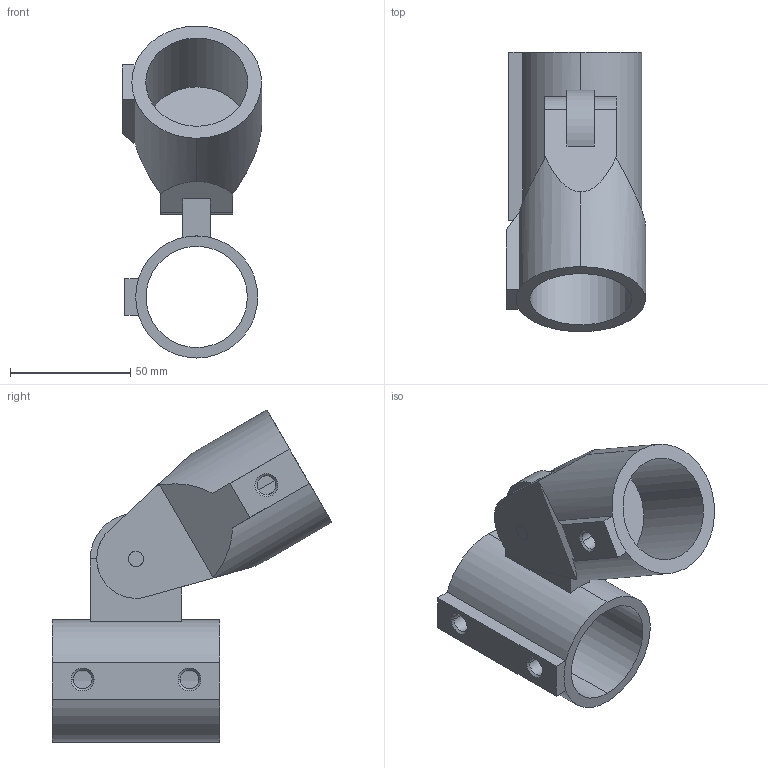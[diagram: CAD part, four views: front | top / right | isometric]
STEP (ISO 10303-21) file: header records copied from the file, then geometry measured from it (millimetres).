
FILE_DESCRIPTION(/* description */ ('VariCAD 2010-3.03 AP-214'),/* implementation_level */ '2;1');
FILE_NAME(/* name */ '0353-80-01',/* time_stamp */ '2011-06-29T16:02:22-06:00',/* author */ (''),/* organization */ (''),/* preprocessor_version */ 'ST-DEVELOPER v12',/* originating_system */ 'VariCAD 2010-3.03; kernel version (20100102)',/* authorisation */ '');
FILE_SCHEMA (('AUTOMOTIVE_DESIGN'));
Length unit declared in the file: millimetre
Products named in the file (1): Part
Bounding box: 57.91 x 116.4 x 138.19 mm (x, y, z)
Volume: 155959 mm3; surface area: 49549.1 mm2
Topology: 4 solids, 4 shells, 78 faces, 201 edges, 127 vertices
Faces by surface type: cylinder 37, plane 35, cone 6
Entity records: 3382 total; most frequent: CARTESIAN_POINT 861, ORIENTED_EDGE 402, DIRECTION 397, EDGE_CURVE 201, AXIS2_PLACEMENT_3D 147, VERTEX_POINT 127, LINE 103, VECTOR 103
